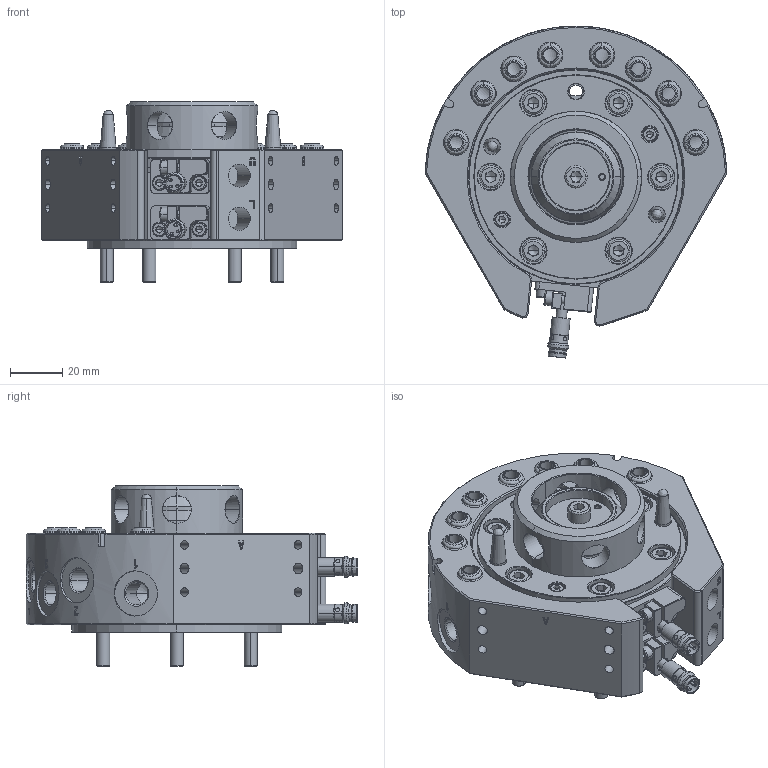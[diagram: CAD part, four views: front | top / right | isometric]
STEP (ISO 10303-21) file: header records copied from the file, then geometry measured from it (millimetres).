
FILE_DESCRIPTION (( 'STEP AP203' ), '1' );
FILE_NAME ('QCA-S50R-S.STEP', '2024-08-07T02:30:20', ( '微软用户' ), ( '微软中国' ), 'SwSTEP 2.0', 'SolidWorks 2018', '' );
FILE_SCHEMA (( 'CONFIG_CONTROL_DESIGN' ));
Length unit declared in the file: millimetre
Products named in the file (1): QCA-S50R-S
Bounding box: 114.96 x 126.47 x 68.7 mm (x, y, z)
Surface area: 66403.4 mm2 (no closed solid volume)
Topology: 0 solids, 19 shells, 1642 faces, 4060 edges, 2486 vertices
Faces by surface type: cylinder 520, plane 501, cone 482, bspline 139
Entity records: 60534 total; most frequent: CARTESIAN_POINT 23069, ORIENTED_EDGE 7890, DIRECTION 7581, EDGE_CURVE 3948, AXIS2_PLACEMENT_3D 2930, VERTEX_POINT 2486, EDGE_LOOP 1842, LINE 1721
